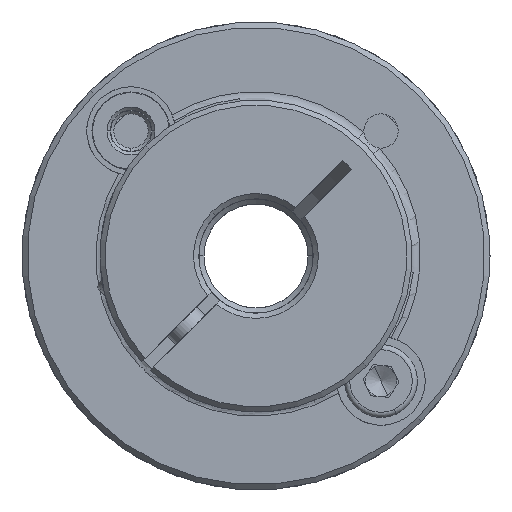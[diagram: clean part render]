
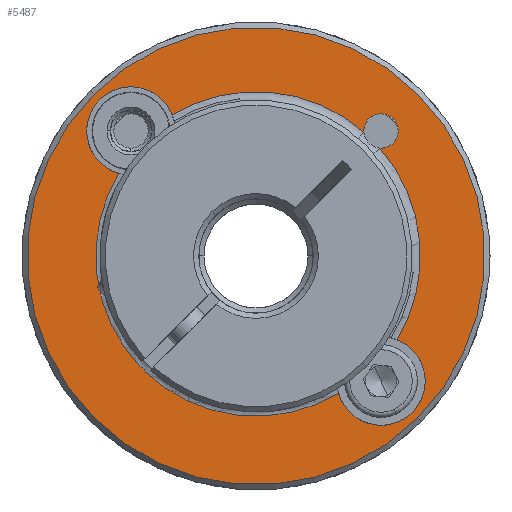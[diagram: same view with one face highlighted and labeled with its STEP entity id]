
A CAD part, front view. The second image highlights one B-rep face of the part: STEP entity #5487.
In plain terms, the highlighted planar face has unit normal (0, -1, 0).
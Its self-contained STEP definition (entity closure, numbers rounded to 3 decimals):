
#91 = CIRCLE ( 'NONE', #9628, 1.65 ) ;
#97 = VERTEX_POINT ( 'NONE', #10719 ) ;
#229 = CIRCLE ( 'NONE', #1521, 15.4 ) ;
#396 = CARTESIAN_POINT ( 'NONE',  ( -8.911, -12.641, 45. ) ) ;
#538 = CARTESIAN_POINT ( 'NONE',  ( -20.068, -12.641, 34.385 ) ) ;
#557 = DIRECTION ( 'NONE',  ( 0., 1., 0. ) ) ;
#585 = CIRCLE ( 'NONE', #660, 15.4 ) ;
#660 = AXIS2_PLACEMENT_3D ( 'NONE', #14464, #1871, #9835 ) ;
#758 = ORIENTED_EDGE ( 'NONE', *, *, #6526, .T. ) ;
#866 = DIRECTION ( 'NONE',  ( -0.707, 0., 0.707 ) ) ;
#877 = DIRECTION ( 'NONE',  ( -0.707, 0., 0.707 ) ) ;
#899 = DIRECTION ( 'NONE',  ( 0., 1., 0. ) ) ;
#928 = EDGE_CURVE ( 'NONE', #3125, #14443, #8700, .T. ) ;
#999 = EDGE_LOOP ( 'NONE', ( #8467, #758, #7269, #12594, #2016, #7179, #13315, #3422, #13657, #7959, #12519, #14556 ) ) ;
#1133 = EDGE_CURVE ( 'NONE', #14443, #4821, #585, .T. ) ;
#1237 = AXIS2_PLACEMENT_3D ( 'NONE', #3772, #557, #7382 ) ;
#1521 = AXIS2_PLACEMENT_3D ( 'NONE', #396, #1819, #2076 ) ;
#1669 = VERTEX_POINT ( 'NONE', #4235 ) ;
#1738 = EDGE_CURVE ( 'NONE', #8210, #97, #8497, .T. ) ;
#1793 = CIRCLE ( 'NONE', #5123, 4.25 ) ;
#1810 = AXIS2_PLACEMENT_3D ( 'NONE', #3657, #12767, #9503 ) ;
#1819 = DIRECTION ( 'NONE',  ( 0., 1., 0. ) ) ;
#1871 = DIRECTION ( 'NONE',  ( 0., 1., 0. ) ) ;
#2016 = ORIENTED_EDGE ( 'NONE', *, *, #14229, .T. ) ;
#2066 = EDGE_CURVE ( 'NONE', #4821, #6108, #10153, .T. ) ;
#2076 = DIRECTION ( 'NONE',  ( -0.707, 0., 0.707 ) ) ;
#2124 = VERTEX_POINT ( 'NONE', #5084 ) ;
#2186 = CARTESIAN_POINT ( 'NONE',  ( -16.98, -12.641, 58.584 ) ) ;
#2533 = AXIS2_PLACEMENT_3D ( 'NONE', #10430, #9126, #11701 ) ;
#2819 = EDGE_CURVE ( 'NONE', #7851, #5493, #1793, .T. ) ;
#2864 = DIRECTION ( 'NONE',  ( 0., 1., 0. ) ) ;
#2973 = FACE_OUTER_BOUND ( 'NONE', #13218, .T. ) ;
#3125 = VERTEX_POINT ( 'NONE', #4001 ) ;
#3403 = EDGE_CURVE ( 'NONE', #9780, #5613, #4636, .T. ) ;
#3422 = ORIENTED_EDGE ( 'NONE', *, *, #1738, .T. ) ;
#3631 = ORIENTED_EDGE ( 'NONE', *, *, #3403, .T. ) ;
#3657 = CARTESIAN_POINT ( 'NONE',  ( 3.11, -12.641, 57.021 ) ) ;
#3673 = CARTESIAN_POINT ( 'NONE',  ( -0.974, -12.641, 31.803 ) ) ;
#3772 = CARTESIAN_POINT ( 'NONE',  ( 3.11, -12.641, 57.021 ) ) ;
#3928 = CIRCLE ( 'NONE', #1810, 1.65 ) ;
#4001 = CARTESIAN_POINT ( 'NONE',  ( 6.115, -12.641, 29.974 ) ) ;
#4022 = CIRCLE ( 'NONE', #1237, 1.65 ) ;
#4024 = DIRECTION ( 'NONE',  ( -0.707, 0., 0.707 ) ) ;
#4025 = CARTESIAN_POINT ( 'NONE',  ( -20.932, -12.641, 57.021 ) ) ;
#4042 = FACE_BOUND ( 'NONE', #999, .T. ) ;
#4137 = CARTESIAN_POINT ( 'NONE',  ( -20.932, -12.641, 57.021 ) ) ;
#4191 = CARTESIAN_POINT ( 'NONE',  ( 1.463, -12.641, 56.917 ) ) ;
#4218 = CARTESIAN_POINT ( 'NONE',  ( 3.11, -12.641, 32.979 ) ) ;
#4235 = CARTESIAN_POINT ( 'NONE',  ( -22.108, -12.641, 52.937 ) ) ;
#4461 = PLANE ( 'NONE',  #7007 ) ;
#4605 = VERTEX_POINT ( 'NONE', #4191 ) ;
#4636 = CIRCLE ( 'NONE', #2533, 22. ) ;
#4821 = VERTEX_POINT ( 'NONE', #8226 ) ;
#4980 = CARTESIAN_POINT ( 'NONE',  ( -19.844, -12.641, 34.248 ) ) ;
#5084 = CARTESIAN_POINT ( 'NONE',  ( 4.277, -12.641, 55.854 ) ) ;
#5110 = DIRECTION ( 'NONE',  ( -0.707, 0., 0.707 ) ) ;
#5123 = AXIS2_PLACEMENT_3D ( 'NONE', #4137, #14674, #877 ) ;
#5246 = DIRECTION ( 'NONE',  ( -0.707, 0., 0.707 ) ) ;
#5336 = DIRECTION ( 'NONE',  ( -0.707, 0., 0.707 ) ) ;
#5487 = ADVANCED_FACE ( 'NONE', ( #4042, #2973 ), #4461, .T. ) ;
#5493 = VERTEX_POINT ( 'NONE', #2186 ) ;
#5613 = VERTEX_POINT ( 'NONE', #6080 ) ;
#5711 = CARTESIAN_POINT ( 'NONE',  ( 3.006, -12.641, 55.374 ) ) ;
#6080 = CARTESIAN_POINT ( 'NONE',  ( -24.467, -12.641, 60.556 ) ) ;
#6108 = VERTEX_POINT ( 'NONE', #538 ) ;
#6125 = DIRECTION ( 'NONE',  ( 0., 1., 0. ) ) ;
#6163 = CARTESIAN_POINT ( 'NONE',  ( -20.068, -12.641, 34.385 ) ) ;
#6336 = DIRECTION ( 'NONE',  ( 0., 1., 0. ) ) ;
#6342 = AXIS2_PLACEMENT_3D ( 'NONE', #4218, #899, #5246 ) ;
#6436 = DIRECTION ( 'NONE',  ( -0.707, 0., 0.707 ) ) ;
#6526 = EDGE_CURVE ( 'NONE', #1669, #7851, #7447, .T. ) ;
#6540 = DIRECTION ( 'NONE',  ( 0., 1., 0. ) ) ;
#6596 = CARTESIAN_POINT ( 'NONE',  ( 1.943, -12.641, 58.188 ) ) ;
#6713 = EDGE_CURVE ( 'NONE', #5613, #9780, #12347, .T. ) ;
#6786 = CARTESIAN_POINT ( 'NONE',  ( -8.911, -12.641, 45. ) ) ;
#7007 = AXIS2_PLACEMENT_3D ( 'NONE', #6786, #11383, #7933 ) ;
#7179 = ORIENTED_EDGE ( 'NONE', *, *, #11243, .T. ) ;
#7269 = ORIENTED_EDGE ( 'NONE', *, *, #2819, .T. ) ;
#7382 = DIRECTION ( 'NONE',  ( -0.707, 0., 0.707 ) ) ;
#7447 = CIRCLE ( 'NONE', #8645, 4.25 ) ;
#7851 = VERTEX_POINT ( 'NONE', #9180 ) ;
#7933 = DIRECTION ( 'NONE',  ( -0.707, 0., 0.707 ) ) ;
#7957 = CARTESIAN_POINT ( 'NONE',  ( 6.646, -12.641, 29.444 ) ) ;
#7959 = ORIENTED_EDGE ( 'NONE', *, *, #928, .T. ) ;
#8210 = VERTEX_POINT ( 'NONE', #5711 ) ;
#8226 = CARTESIAN_POINT ( 'NONE',  ( -19.526, -12.641, 33.843 ) ) ;
#8380 = AXIS2_PLACEMENT_3D ( 'NONE', #13500, #6540, #866 ) ;
#8467 = ORIENTED_EDGE ( 'NONE', *, *, #8946, .T. ) ;
#8494 = ORIENTED_EDGE ( 'NONE', *, *, #6713, .T. ) ;
#8497 = CIRCLE ( 'NONE', #8380, 15.8 ) ;
#8558 = DIRECTION ( 'NONE',  ( -0.707, 0., 0.707 ) ) ;
#8645 = AXIS2_PLACEMENT_3D ( 'NONE', #4025, #6336, #5110 ) ;
#8700 = CIRCLE ( 'NONE', #6342, 4.25 ) ;
#8946 = EDGE_CURVE ( 'NONE', #6108, #1669, #229, .T. ) ;
#9029 = DIRECTION ( 'NONE',  ( 0., 1., 0. ) ) ;
#9126 = DIRECTION ( 'NONE',  ( 0., -1., 0. ) ) ;
#9180 = CARTESIAN_POINT ( 'NONE',  ( -23.937, -12.641, 60.026 ) ) ;
#9503 = DIRECTION ( 'NONE',  ( -0.707, 0., 0.707 ) ) ;
#9622 = AXIS2_PLACEMENT_3D ( 'NONE', #9768, #2864, #4024 ) ;
#9628 = AXIS2_PLACEMENT_3D ( 'NONE', #10147, #9029, #5336 ) ;
#9652 = CARTESIAN_POINT ( 'NONE',  ( -19.526, -12.641, 33.843 ) ) ;
#9768 = CARTESIAN_POINT ( 'NONE',  ( -8.911, -12.641, 45. ) ) ;
#9780 = VERTEX_POINT ( 'NONE', #7957 ) ;
#9835 = DIRECTION ( 'NONE',  ( -0.707, 0., 0.707 ) ) ;
#10078 = DIRECTION ( 'NONE',  ( 0., -1., 0. ) ) ;
#10147 = CARTESIAN_POINT ( 'NONE',  ( 3.11, -12.641, 57.021 ) ) ;
#10153 = B_SPLINE_CURVE_WITH_KNOTS ( 'NONE', 3,
 ( #9652, #11923, #4980, #6163 ),
 .UNSPECIFIED., .F., .F.,
 ( 4, 4 ),
 ( 0., 1. ),
 .UNSPECIFIED. ) ;
#10168 = CIRCLE ( 'NONE', #10799, 4.25 ) ;
#10430 = CARTESIAN_POINT ( 'NONE',  ( -8.911, -12.641, 45. ) ) ;
#10719 = CARTESIAN_POINT ( 'NONE',  ( 4.674, -12.641, 36.931 ) ) ;
#10799 = AXIS2_PLACEMENT_3D ( 'NONE', #13088, #6125, #8558 ) ;
#11038 = CARTESIAN_POINT ( 'NONE',  ( -8.911, -12.641, 45. ) ) ;
#11243 = EDGE_CURVE ( 'NONE', #13246, #2124, #3928, .T. ) ;
#11383 = DIRECTION ( 'NONE',  ( 0., -1., 0. ) ) ;
#11701 = DIRECTION ( 'NONE',  ( -0.707, 0., 0.707 ) ) ;
#11923 = CARTESIAN_POINT ( 'NONE',  ( -19.663, -12.641, 34.067 ) ) ;
#11954 = AXIS2_PLACEMENT_3D ( 'NONE', #11038, #10078, #6436 ) ;
#12347 = CIRCLE ( 'NONE', #11954, 22. ) ;
#12519 = ORIENTED_EDGE ( 'NONE', *, *, #1133, .T. ) ;
#12594 = ORIENTED_EDGE ( 'NONE', *, *, #13183, .T. ) ;
#12767 = DIRECTION ( 'NONE',  ( 0., 1., 0. ) ) ;
#12920 = CIRCLE ( 'NONE', #9622, 15.8 ) ;
#13088 = CARTESIAN_POINT ( 'NONE',  ( 3.11, -12.641, 32.979 ) ) ;
#13183 = EDGE_CURVE ( 'NONE', #5493, #4605, #12920, .T. ) ;
#13218 = EDGE_LOOP ( 'NONE', ( #3631, #8494 ) ) ;
#13246 = VERTEX_POINT ( 'NONE', #6596 ) ;
#13315 = ORIENTED_EDGE ( 'NONE', *, *, #14587, .T. ) ;
#13500 = CARTESIAN_POINT ( 'NONE',  ( -8.911, -12.641, 45. ) ) ;
#13657 = ORIENTED_EDGE ( 'NONE', *, *, #14554, .T. ) ;
#14229 = EDGE_CURVE ( 'NONE', #4605, #13246, #91, .T. ) ;
#14443 = VERTEX_POINT ( 'NONE', #3673 ) ;
#14464 = CARTESIAN_POINT ( 'NONE',  ( -8.911, -12.641, 45. ) ) ;
#14554 = EDGE_CURVE ( 'NONE', #97, #3125, #10168, .T. ) ;
#14556 = ORIENTED_EDGE ( 'NONE', *, *, #2066, .T. ) ;
#14587 = EDGE_CURVE ( 'NONE', #2124, #8210, #4022, .T. ) ;
#14674 = DIRECTION ( 'NONE',  ( 0., 1., 0. ) ) ;
